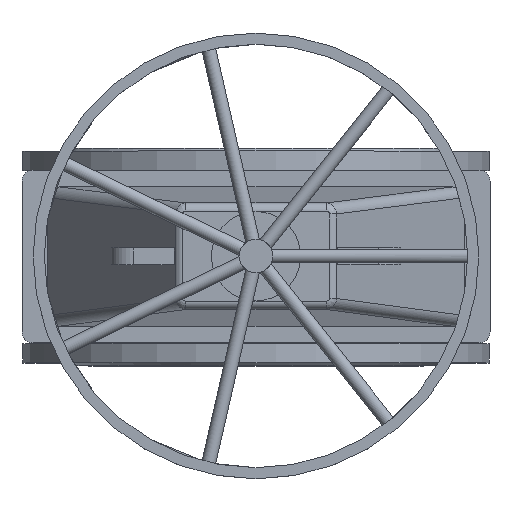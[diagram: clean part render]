
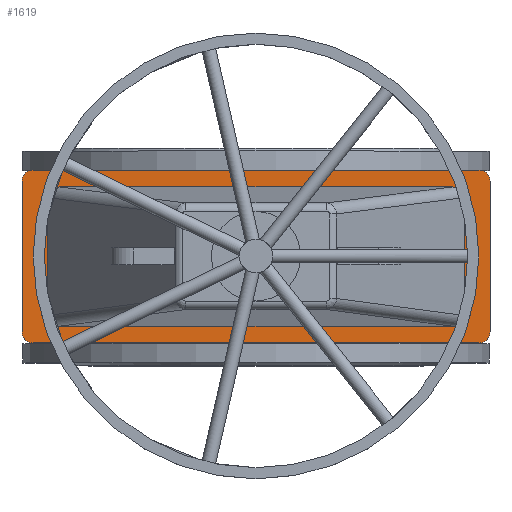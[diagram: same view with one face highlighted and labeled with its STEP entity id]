
A CAD part, top view. The second image highlights one B-rep face of the part: STEP entity #1619.
In plain terms, the highlighted planar face has unit normal (0, 0, 1).
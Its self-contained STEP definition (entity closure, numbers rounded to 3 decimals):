
#1619=ADVANCED_FACE('',(#4328,#4330),#4332,.T.);
#4328=FACE_BOUND('',#4329,.T.);
#4329=EDGE_LOOP('',(#5799,#5800,#5801,#5802,#5803,#5804,#5805,#5806));
#4330=FACE_BOUND('',#4331,.T.);
#4331=EDGE_LOOP('',(#5807,#5808,#5809,#5810,#5811,#5812,#5813,#5814));
#4332=PLANE('',#4333);
#4333=AXIS2_PLACEMENT_3D('',#4334,#4335,#4336);
#4334=CARTESIAN_POINT('',(0.,0.,650.));
#4335=DIRECTION('',(0.,-0.,1.));
#4336=DIRECTION('',(0.,1.,0.));
#5799=ORIENTED_EDGE('',*,*,#6385,.F.);
#5800=ORIENTED_EDGE('',*,*,#6398,.T.);
#5801=ORIENTED_EDGE('',*,*,#6397,.F.);
#5802=ORIENTED_EDGE('',*,*,#6395,.T.);
#5803=ORIENTED_EDGE('',*,*,#6393,.F.);
#5804=ORIENTED_EDGE('',*,*,#6391,.T.);
#5805=ORIENTED_EDGE('',*,*,#6389,.F.);
#5806=ORIENTED_EDGE('',*,*,#6386,.T.);
#5807=ORIENTED_EDGE('',*,*,#6399,.F.);
#5808=ORIENTED_EDGE('',*,*,#6400,.F.);
#5809=ORIENTED_EDGE('',*,*,#6401,.F.);
#5810=ORIENTED_EDGE('',*,*,#6402,.F.);
#5811=ORIENTED_EDGE('',*,*,#6403,.F.);
#5812=ORIENTED_EDGE('',*,*,#6404,.F.);
#5813=ORIENTED_EDGE('',*,*,#6405,.F.);
#5814=ORIENTED_EDGE('',*,*,#6406,.F.);
#6385=EDGE_CURVE('',#7165,#7163,#7167,.F.);
#6386=EDGE_CURVE('',#7168,#7163,#7169,.T.);
#6389=EDGE_CURVE('',#7168,#7171,#7173,.F.);
#6391=EDGE_CURVE('',#7174,#7171,#7176,.T.);
#6393=EDGE_CURVE('',#7174,#7177,#7179,.F.);
#6395=EDGE_CURVE('',#7180,#7177,#7182,.T.);
#6397=EDGE_CURVE('',#7180,#7183,#7185,.F.);
#6398=EDGE_CURVE('',#7165,#7183,#7186,.T.);
#6399=EDGE_CURVE('',#7187,#7188,#7189,.F.);
#6400=EDGE_CURVE('',#7190,#7187,#7191,.T.);
#6401=EDGE_CURVE('',#7192,#7190,#7193,.T.);
#6402=EDGE_CURVE('',#7194,#7192,#7195,.T.);
#6403=EDGE_CURVE('',#7196,#7194,#7197,.F.);
#6404=EDGE_CURVE('',#7198,#7196,#7199,.T.);
#6405=EDGE_CURVE('',#7200,#7198,#7201,.T.);
#6406=EDGE_CURVE('',#7188,#7200,#7202,.T.);
#7163=VERTEX_POINT('',#9397);
#7165=VERTEX_POINT('',#9401);
#7167=CIRCLE('',#9405,20.);
#7168=VERTEX_POINT('',#9409);
#7169=LINE('',#9410,#9411);
#7171=VERTEX_POINT('',#9416);
#7173=CIRCLE('',#9420,20.);
#7174=VERTEX_POINT('',#9424);
#7176=LINE('',#9428,#9429);
#7177=VERTEX_POINT('',#9431);
#7179=CIRCLE('',#9435,20.);
#7180=VERTEX_POINT('',#9439);
#7182=LINE('',#9443,#9444);
#7183=VERTEX_POINT('',#9446);
#7185=CIRCLE('',#9450,20.);
#7186=LINE('',#9454,#9455);
#7187=VERTEX_POINT('',#9457);
#7188=VERTEX_POINT('',#9458);
#7189=(BOUNDED_CURVE()B_SPLINE_CURVE(3,
(#9459,#9460,#9461,#9462),
.UNSPECIFIED.,.F.,.F.)B_SPLINE_CURVE_WITH_KNOTS((4,4),
(0.,1.),
.UNSPECIFIED.)CURVE()GEOMETRIC_REPRESENTATION_ITEM()RATIONAL_B_SPLINE_CURVE((1.,
0.816,0.816,1.))REPRESENTATION_ITEM(''));
#7190=VERTEX_POINT('',#9463);
#7191=LINE('',#9464,#9465);
#7192=VERTEX_POINT('',#9467);
#7193=(BOUNDED_CURVE()B_SPLINE_CURVE(3,
(#9468,#9469,#9470,#9471),
.UNSPECIFIED.,.F.,.F.)B_SPLINE_CURVE_WITH_KNOTS((4,4),
(0.,1.),
.UNSPECIFIED.)CURVE()GEOMETRIC_REPRESENTATION_ITEM()RATIONAL_B_SPLINE_CURVE((1.,
0.816,0.816,1.))REPRESENTATION_ITEM(''));
#7194=VERTEX_POINT('',#9472);
#7195=LINE('',#9473,#9474);
#7196=VERTEX_POINT('',#9476);
#7197=(BOUNDED_CURVE()B_SPLINE_CURVE(3,
(#9477,#9478,#9479,#9480),
.UNSPECIFIED.,.F.,.F.)B_SPLINE_CURVE_WITH_KNOTS((4,4),
(0.,1.),
.UNSPECIFIED.)CURVE()GEOMETRIC_REPRESENTATION_ITEM()RATIONAL_B_SPLINE_CURVE((1.,
0.816,0.816,1.))REPRESENTATION_ITEM(''));
#7198=VERTEX_POINT('',#9481);
#7199=LINE('',#9482,#9483);
#7200=VERTEX_POINT('',#9485);
#7201=(BOUNDED_CURVE()B_SPLINE_CURVE(3,
(#9486,#9487,#9488,#9489),
.UNSPECIFIED.,.F.,.F.)B_SPLINE_CURVE_WITH_KNOTS((4,4),
(0.,1.),
.UNSPECIFIED.)CURVE()GEOMETRIC_REPRESENTATION_ITEM()RATIONAL_B_SPLINE_CURVE((1.,
0.816,0.816,1.))REPRESENTATION_ITEM(''));
#7202=LINE('',#9490,#9491);
#9397=CARTESIAN_POINT('',(-420.,-135.,650.));
#9401=CARTESIAN_POINT('',(-400.,-155.,650.));
#9405=AXIS2_PLACEMENT_3D('',#9406,#9407,#9408);
#9406=CARTESIAN_POINT('',(-400.,-135.,650.));
#9407=DIRECTION('',(0.,-0.,1.));
#9408=DIRECTION('',(-1.,0.,0.));
#9409=CARTESIAN_POINT('',(-420.,135.,650.));
#9410=CARTESIAN_POINT('',(-420.,135.,650.));
#9411=VECTOR('',#9412,1.);
#9412=DIRECTION('',(0.,-1.,0.));
#9416=CARTESIAN_POINT('',(-400.,155.,650.));
#9420=AXIS2_PLACEMENT_3D('',#9421,#9422,#9423);
#9421=CARTESIAN_POINT('',(-400.,135.,650.));
#9422=DIRECTION('',(0.,-0.,1.));
#9423=DIRECTION('',(0.,1.,0.));
#9424=CARTESIAN_POINT('',(400.,155.,650.));
#9428=CARTESIAN_POINT('',(400.,155.,650.));
#9429=VECTOR('',#9430,1.);
#9430=DIRECTION('',(-1.,0.,0.));
#9431=CARTESIAN_POINT('',(420.,135.,650.));
#9435=AXIS2_PLACEMENT_3D('',#9436,#9437,#9438);
#9436=CARTESIAN_POINT('',(400.,135.,650.));
#9437=DIRECTION('',(0.,-0.,1.));
#9438=DIRECTION('',(1.,0.,0.));
#9439=CARTESIAN_POINT('',(420.,-135.,650.));
#9443=CARTESIAN_POINT('',(420.,-135.,650.));
#9444=VECTOR('',#9445,1.);
#9445=DIRECTION('',(0.,1.,0.));
#9446=CARTESIAN_POINT('',(400.,-155.,650.));
#9450=AXIS2_PLACEMENT_3D('',#9451,#9452,#9453);
#9451=CARTESIAN_POINT('',(400.,-135.,650.));
#9452=DIRECTION('',(0.,-0.,1.));
#9453=DIRECTION('',(0.,-1.,0.));
#9454=CARTESIAN_POINT('',(-400.,-155.,650.));
#9455=VECTOR('',#9456,1.);
#9456=DIRECTION('',(1.,0.,0.));
#9457=CARTESIAN_POINT('',(-375.,-105.899,650.));
#9458=CARTESIAN_POINT('',(-352.08,-125.,650.));
#9459=CARTESIAN_POINT('',(-352.08,-125.,650.));
#9460=CARTESIAN_POINT('',(-365.638,-125.,650.));
#9461=CARTESIAN_POINT('',(-375.,-117.198,650.));
#9462=CARTESIAN_POINT('',(-375.,-105.899,650.));
#9463=CARTESIAN_POINT('',(-375.,105.899,650.));
#9464=CARTESIAN_POINT('',(-375.,105.899,650.));
#9465=VECTOR('',#9466,1.);
#9466=DIRECTION('',(0.,-1.,0.));
#9467=CARTESIAN_POINT('',(-352.08,125.,650.));
#9468=CARTESIAN_POINT('',(-352.08,125.,650.));
#9469=CARTESIAN_POINT('',(-365.638,125.,650.));
#9470=CARTESIAN_POINT('',(-375.,117.198,650.));
#9471=CARTESIAN_POINT('',(-375.,105.899,650.));
#9472=CARTESIAN_POINT('',(352.08,125.,650.));
#9473=CARTESIAN_POINT('',(352.08,125.,650.));
#9474=VECTOR('',#9475,1.);
#9475=DIRECTION('',(-1.,0.,0.));
#9476=CARTESIAN_POINT('',(375.,105.899,650.));
#9477=CARTESIAN_POINT('',(352.08,125.,650.));
#9478=CARTESIAN_POINT('',(365.638,125.,650.));
#9479=CARTESIAN_POINT('',(375.,117.198,650.));
#9480=CARTESIAN_POINT('',(375.,105.899,650.));
#9481=CARTESIAN_POINT('',(375.,-105.899,650.));
#9482=CARTESIAN_POINT('',(375.,-105.899,650.));
#9483=VECTOR('',#9484,1.);
#9484=DIRECTION('',(0.,1.,0.));
#9485=CARTESIAN_POINT('',(352.08,-125.,650.));
#9486=CARTESIAN_POINT('',(352.08,-125.,650.));
#9487=CARTESIAN_POINT('',(365.638,-125.,650.));
#9488=CARTESIAN_POINT('',(375.,-117.198,650.));
#9489=CARTESIAN_POINT('',(375.,-105.899,650.));
#9490=CARTESIAN_POINT('',(-352.08,-125.,650.));
#9491=VECTOR('',#9492,1.);
#9492=DIRECTION('',(1.,0.,0.));
